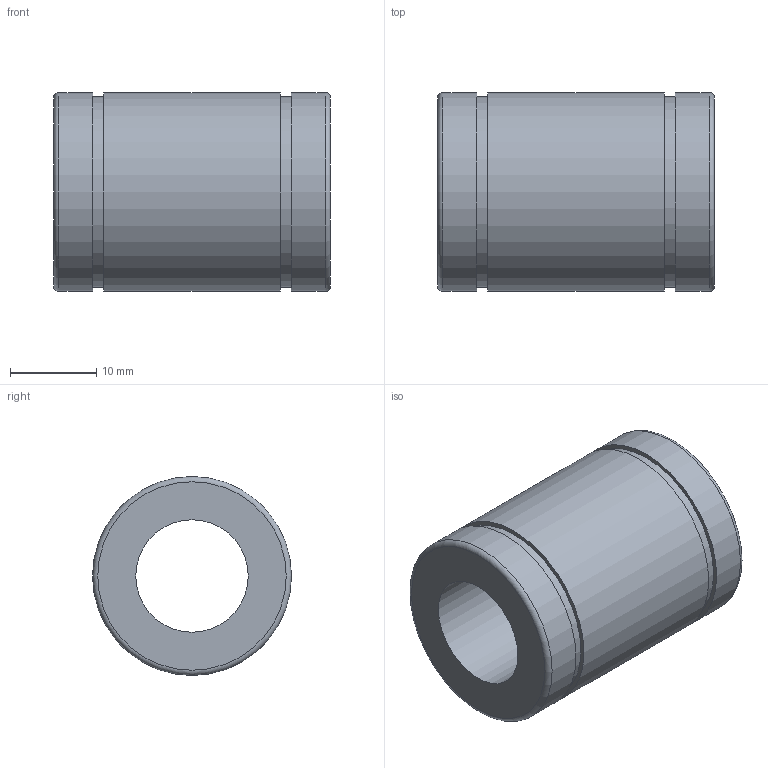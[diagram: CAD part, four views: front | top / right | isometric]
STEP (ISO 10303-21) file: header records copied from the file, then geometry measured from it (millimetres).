
FILE_DESCRIPTION(('STEP AP203'),'1');
FILE_NAME('//192.168.1.1/share/s-4 技術開発/s-4-13_CAD/03_見直し済み/001 修正済み/N/N_TOP/N-13.step','2020-03-17T00:38:07',(' '),(' '),'Spatial InterOp 3D',' ',' ');
FILE_SCHEMA(('CONFIG_CONTROL_DESIGN'));
Length unit declared in the file: millimetre
Products named in the file (1): 1
Bounding box: 32 x 23 x 23 mm (x, y, z)
Volume: 8944.9 mm3; surface area: 4280.3 mm2
Topology: 1 solids, 1 shells, 14 faces, 25 edges, 17 vertices
Faces by surface type: cylinder 6, plane 6, torus 2
Full cylindrical faces by diameter (mm): 13 x1, 22 x2, 23 x3
Entity records: 332 total; most frequent: DIRECTION 58, CARTESIAN_POINT 43, AXIS2_PLACEMENT_3D 29, EDGE_LOOP 28, ORIENTED_EDGE 28, FACE_OUTER_BOUND 22, ADVANCED_FACE 14, EDGE_CURVE 14
